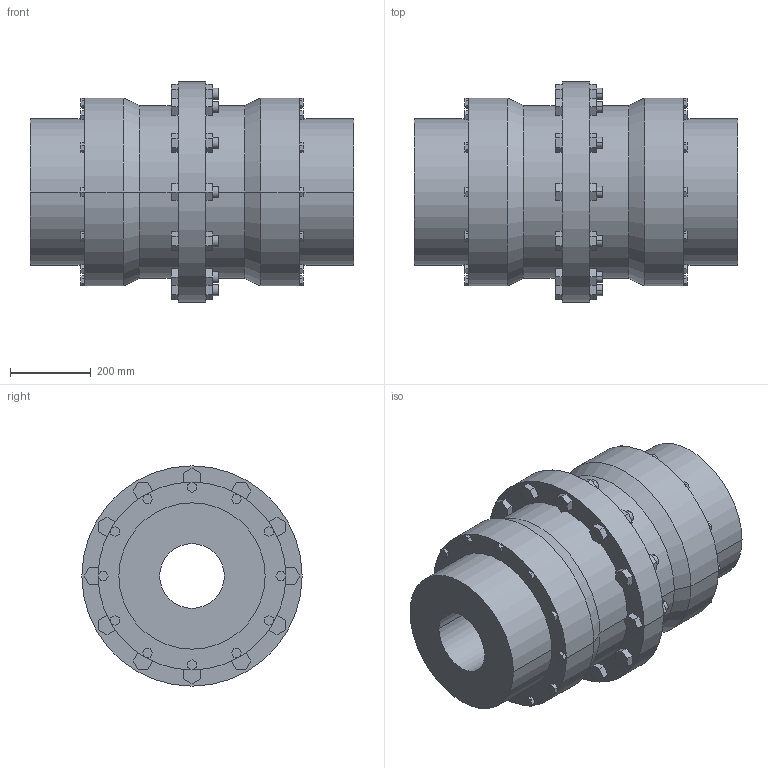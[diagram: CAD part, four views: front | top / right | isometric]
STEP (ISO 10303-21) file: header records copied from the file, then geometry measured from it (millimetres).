
FILE_DESCRIPTION((''),'2;1');
FILE_NAME('A19716100-0_ASM','2019-05-23T',('AB_Roschiwal'),('RENK AG'),'PRO/ENGINEER BY PARAMETRIC TECHNOLOGY CORPORATION, 2015440','PRO/ENGINEER BY PARAMETRIC TECHNOLOGY CORPORATION, 2015440','');
FILE_SCHEMA(('CONFIG_CONTROL_DESIGN'));
Length unit declared in the file: millimetre
Products named in the file (3): SBK225_GEHAEUSE; SBK225_NABE; A19716100-0_ASM
Assembly tree (3 placements, depth 2):
  A19716100-0_ASM
    SBK225_GEHAEUSE
    SBK225_NABE  x2
Bounding box: 800 x 545 x 545 mm (x, y, z)
Volume: 75825407 mm3; surface area: 3157574 mm2
Topology: 3 solids, 3 shells, 422 faces, 1036 edges, 688 vertices
Faces by surface type: plane 362, cylinder 56, cone 4
Entity records: 12052 total; most frequent: CARTESIAN_POINT 2100, ORIENTED_EDGE 2024, DIRECTION 1940, EDGE_CURVE 1012, VECTOR 916, LINE 916, VERTEX_POINT 672, AXIS2_PLACEMENT_3D 512
